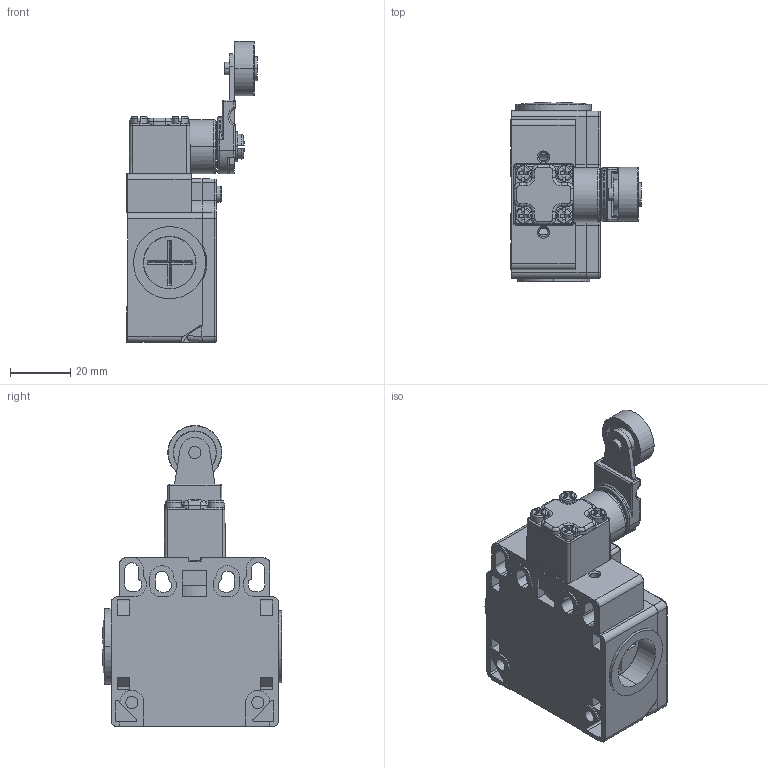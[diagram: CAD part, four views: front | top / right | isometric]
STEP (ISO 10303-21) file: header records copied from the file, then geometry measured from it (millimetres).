
FILE_DESCRIPTION(/* description */ (''),/* implementation_level */ '2;1');
FILE_NAME(/* name */ 'C4N-8122.stp',/* time_stamp */ '2024-03-09T15:57:43+08:00',/* author */ (''),/* organization */ (''),/* preprocessor_version */ 'ST-DEVELOPER v16.7',/* originating_system */ 'SIEMENS PLM Software NX 12.0',/* authorisation */ '');
FILE_SCHEMA (('AUTOMOTIVE_DESIGN { 1 0 10303 214 3 1 1 1 }'));
Products named in the file (1): Admi0D500F52uyll
Bounding box: 43.54 x 59.57 x 100.11 mm (x, y, z)
Volume: 42933.4 mm3; surface area: 48232.3 mm2
Topology: 20 solids, 20 shells, 1975 faces, 5466 edges, 3601 vertices
Faces by surface type: plane 1133, cylinder 542, cone 152, torus 67, bspline 49, sphere 24, extrusion 8
Full cylindrical faces by diameter (mm): 2.09 x1, 2.5 x2, 2.6 x4, 2.647 x1, 3 x1, 3.05 x2, 4.1 x2, 4.6 x1, 6 x4, 7.4 x1, 8.6 x1, 11.2 x1, 14.7 x1, 21.3 x2
Entity records: 70908 total; most frequent: CARTESIAN_POINT 19989, ORIENTED_EDGE 10790, DIRECTION 10287, EDGE_CURVE 5395, VERTEX_POINT 3578, AXIS2_PLACEMENT_3D 3520, VECTOR 3247, LINE 3239
